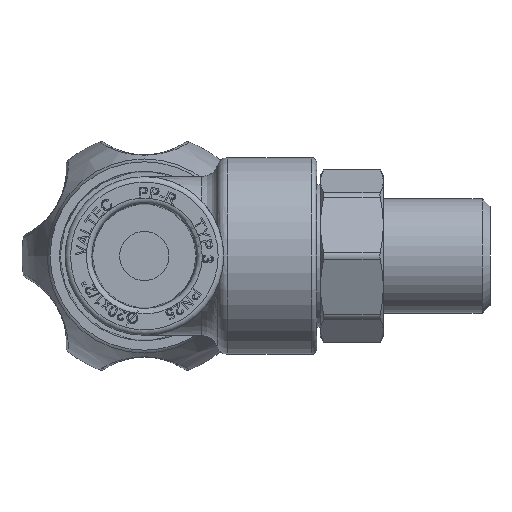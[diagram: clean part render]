
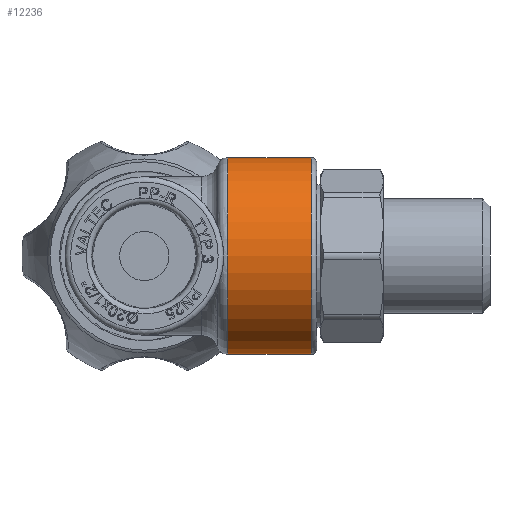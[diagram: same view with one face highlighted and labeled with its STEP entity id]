
A CAD part, front view. The second image highlights one B-rep face of the part: STEP entity #12236.
In plain terms, the highlighted cylindrical face has radius 18 mm (diameter 36 mm), a full revolution.
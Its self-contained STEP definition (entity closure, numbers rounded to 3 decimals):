
#615=CYLINDRICAL_SURFACE('',#13033,18.);
#1767=FACE_OUTER_BOUND('',#2506,.T.);
#2506=EDGE_LOOP('',(#11537,#11538,#11539,#11540,#11541,#11542,#11543,#11544));
#3641=LINE('',#22744,#4776);
#4776=VECTOR('',#15714,18.);
#4970=CIRCLE('',#12927,18.);
#4971=CIRCLE('',#12928,18.);
#4972=CIRCLE('',#12929,18.);
#5032=CIRCLE('',#13029,18.);
#5033=CIRCLE('',#13030,18.);
#5035=CIRCLE('',#13032,18.);
#6161=VERTEX_POINT('',#22537);
#6162=VERTEX_POINT('',#22539);
#6163=VERTEX_POINT('',#22541);
#6223=VERTEX_POINT('',#22736);
#6224=VERTEX_POINT('',#22737);
#6225=VERTEX_POINT('',#22739);
#7908=EDGE_CURVE('',#6161,#6162,#4970,.T.);
#7909=EDGE_CURVE('',#6162,#6163,#4971,.T.);
#7910=EDGE_CURVE('',#6163,#6161,#4972,.T.);
#7994=EDGE_CURVE('',#6223,#6224,#5032,.T.);
#7995=EDGE_CURVE('',#6225,#6223,#5033,.T.);
#7997=EDGE_CURVE('',#6224,#6225,#5035,.T.);
#7998=EDGE_CURVE('',#6163,#6224,#3641,.T.);
#11537=ORIENTED_EDGE('',*,*,#7909,.F.);
#11538=ORIENTED_EDGE('',*,*,#7908,.F.);
#11539=ORIENTED_EDGE('',*,*,#7910,.F.);
#11540=ORIENTED_EDGE('',*,*,#7998,.T.);
#11541=ORIENTED_EDGE('',*,*,#7997,.T.);
#11542=ORIENTED_EDGE('',*,*,#7995,.T.);
#11543=ORIENTED_EDGE('',*,*,#7994,.T.);
#11544=ORIENTED_EDGE('',*,*,#7998,.F.);
#12236=ADVANCED_FACE('',(#1767),#615,.T.);
#12927=AXIS2_PLACEMENT_3D('',#22540,#15482,#15483);
#12928=AXIS2_PLACEMENT_3D('',#22542,#15484,#15485);
#12929=AXIS2_PLACEMENT_3D('',#22543,#15486,#15487);
#13029=AXIS2_PLACEMENT_3D('',#22738,#15704,#15705);
#13030=AXIS2_PLACEMENT_3D('',#22740,#15706,#15707);
#13032=AXIS2_PLACEMENT_3D('',#22742,#15710,#15711);
#13033=AXIS2_PLACEMENT_3D('',#22743,#15712,#15713);
#15482=DIRECTION('center_axis',(-1.,0.,0.));
#15483=DIRECTION('ref_axis',(0.,0.,1.));
#15484=DIRECTION('center_axis',(-1.,0.,0.));
#15485=DIRECTION('ref_axis',(0.,0.,1.));
#15486=DIRECTION('center_axis',(-1.,0.,0.));
#15487=DIRECTION('ref_axis',(0.,0.,1.));
#15704=DIRECTION('center_axis',(-1.,0.,0.));
#15705=DIRECTION('ref_axis',(0.,0.,1.));
#15706=DIRECTION('center_axis',(-1.,0.,0.));
#15707=DIRECTION('ref_axis',(0.,0.,1.));
#15710=DIRECTION('center_axis',(-1.,0.,0.));
#15711=DIRECTION('ref_axis',(0.,0.,1.));
#15712=DIRECTION('center_axis',(-1.,0.,0.));
#15713=DIRECTION('ref_axis',(0.,-1.,0.));
#15714=DIRECTION('',(1.,0.,0.));
#22537=CARTESIAN_POINT('',(15.27,0.,-18.));
#22539=CARTESIAN_POINT('',(15.27,-18.,0.));
#22540=CARTESIAN_POINT('Origin',(15.27,0.,0.));
#22541=CARTESIAN_POINT('',(15.27,18.,0.));
#22542=CARTESIAN_POINT('Origin',(15.27,0.,0.));
#22543=CARTESIAN_POINT('Origin',(15.27,0.,0.));
#22736=CARTESIAN_POINT('',(30.5,-18.,0.));
#22737=CARTESIAN_POINT('',(30.5,18.,0.));
#22738=CARTESIAN_POINT('Origin',(30.5,0.,0.));
#22739=CARTESIAN_POINT('',(30.5,0.,-18.));
#22740=CARTESIAN_POINT('Origin',(30.5,0.,0.));
#22742=CARTESIAN_POINT('Origin',(30.5,0.,0.));
#22743=CARTESIAN_POINT('Origin',(22.885,0.,0.));
#22744=CARTESIAN_POINT('',(22.885,18.,0.));
